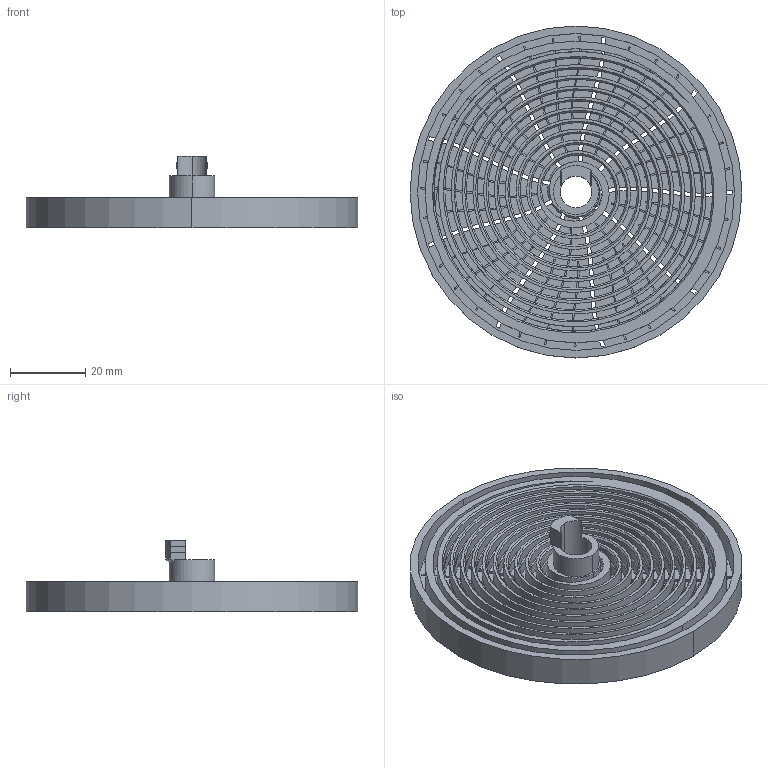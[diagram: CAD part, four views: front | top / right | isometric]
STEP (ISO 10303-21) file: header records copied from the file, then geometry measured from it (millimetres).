
FILE_DESCRIPTION (( 'STEP AP214' ), '1' );
FILE_NAME ('SpringRound_Soft_v3.2.1.STEP', '2019-04-24T21:33:35', ( '' ), ( '' ), 'SwSTEP 2.0', 'SolidWorks 2018', '' );
FILE_SCHEMA (( 'AUTOMOTIVE_DESIGN' ));
Length unit declared in the file: millimetre
Products named in the file (1): SpringRound_Soft_v3.2.1
Bounding box: 88 x 88 x 19 mm (x, y, z)
Volume: 24353.3 mm3; surface area: 46574.8 mm2
Topology: 1 solids, 1 shells, 298 faces, 820 edges, 543 vertices
Faces by surface type: cylinder 121, bspline 93, plane 72, cone 12
Entity records: 35866 total; most frequent: CARTESIAN_POINT 28732, ORIENTED_EDGE 1640, DIRECTION 1236, EDGE_CURVE 820, VERTEX_POINT 543, AXIS2_PLACEMENT_3D 484, EDGE_LOOP 341, ADVANCED_FACE 298
